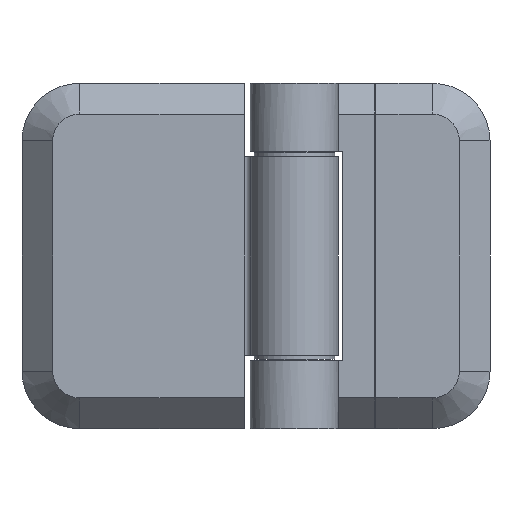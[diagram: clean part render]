
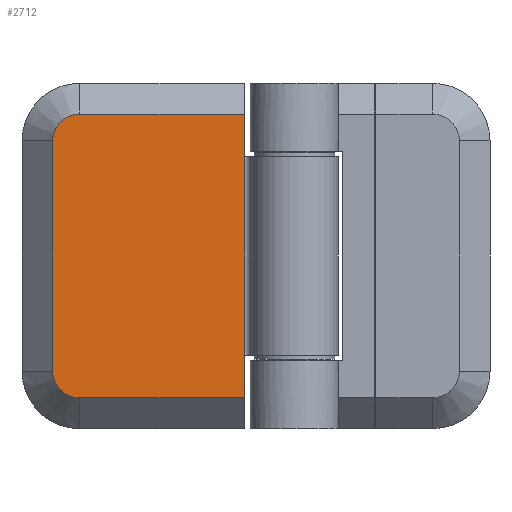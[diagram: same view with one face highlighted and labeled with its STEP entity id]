
A CAD part, front view. The second image highlights one B-rep face of the part: STEP entity #2712.
In plain terms, the highlighted planar face has unit normal (0, -1, 0).
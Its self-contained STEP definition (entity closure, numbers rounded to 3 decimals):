
#225=LINE('',#5066,#496);
#226=LINE('',#5068,#497);
#227=LINE('',#5070,#498);
#228=LINE('',#5072,#499);
#229=LINE('',#5074,#500);
#230=LINE('',#5076,#501);
#231=LINE('',#5078,#502);
#232=LINE('',#5082,#503);
#496=VECTOR('',#4227,1000.);
#497=VECTOR('',#4228,1000.);
#498=VECTOR('',#4229,1000.);
#499=VECTOR('',#4230,1000.);
#500=VECTOR('',#4231,1000.);
#501=VECTOR('',#4232,1000.);
#502=VECTOR('',#4233,1000.);
#503=VECTOR('',#4236,1000.);
#924=ORIENTED_EDGE('',*,*,#1537,.T.);
#925=ORIENTED_EDGE('',*,*,#1538,.T.);
#926=ORIENTED_EDGE('',*,*,#1539,.F.);
#927=ORIENTED_EDGE('',*,*,#1540,.T.);
#928=ORIENTED_EDGE('',*,*,#1541,.F.);
#929=ORIENTED_EDGE('',*,*,#1542,.F.);
#930=ORIENTED_EDGE('',*,*,#1543,.T.);
#931=ORIENTED_EDGE('',*,*,#1544,.T.);
#932=ORIENTED_EDGE('',*,*,#1545,.T.);
#933=ORIENTED_EDGE('',*,*,#1546,.T.);
#1537=EDGE_CURVE('',#1867,#1868,#2043,.F.);
#1538=EDGE_CURVE('',#1868,#1869,#225,.T.);
#1539=EDGE_CURVE('',#1870,#1869,#226,.T.);
#1540=EDGE_CURVE('',#1870,#1871,#227,.T.);
#1541=EDGE_CURVE('',#1872,#1871,#228,.T.);
#1542=EDGE_CURVE('',#1873,#1872,#229,.T.);
#1543=EDGE_CURVE('',#1873,#1874,#230,.T.);
#1544=EDGE_CURVE('',#1874,#1875,#231,.T.);
#1545=EDGE_CURVE('',#1875,#1876,#2044,.F.);
#1546=EDGE_CURVE('',#1876,#1867,#232,.T.);
#1867=VERTEX_POINT('',#5064);
#1868=VERTEX_POINT('',#5065);
#1869=VERTEX_POINT('',#5067);
#1870=VERTEX_POINT('',#5069);
#1871=VERTEX_POINT('',#5071);
#1872=VERTEX_POINT('',#5073);
#1873=VERTEX_POINT('',#5075);
#1874=VERTEX_POINT('',#5077);
#1875=VERTEX_POINT('',#5079);
#1876=VERTEX_POINT('',#5081);
#2043=CIRCLE('',#3748,7.);
#2044=CIRCLE('',#3749,7.);
#2180=EDGE_LOOP('',(#924,#925,#926,#927,#928,#929,#930,#931,#932,#933));
#2399=FACE_BOUND('',#2180,.T.);
#2593=PLANE('',#3747);
#2712=ADVANCED_FACE('',(#2399),#2593,.F.);
#3747=AXIS2_PLACEMENT_3D('',#5062,#4223,#4224);
#3748=AXIS2_PLACEMENT_3D('',#5063,#4225,#4226);
#3749=AXIS2_PLACEMENT_3D('',#5080,#4234,#4235);
#4223=DIRECTION('',(0.,1.,0.));
#4224=DIRECTION('',(-1.,0.,0.));
#4225=DIRECTION('',(0.,1.,0.));
#4226=DIRECTION('',(-1.,0.,0.));
#4227=DIRECTION('',(1.,0.,0.));
#4228=DIRECTION('',(0.,0.,-1.));
#4229=DIRECTION('',(1.,0.,0.));
#4230=DIRECTION('',(0.,0.,-1.));
#4231=DIRECTION('',(1.,0.,0.));
#4232=DIRECTION('',(0.,0.,1.));
#4233=DIRECTION('',(-1.,0.,0.));
#4234=DIRECTION('',(0.,1.,0.));
#4235=DIRECTION('',(-1.,0.,0.));
#4236=DIRECTION('',(0.,0.,-1.));
#5062=CARTESIAN_POINT('',(-71.,0.3,45.));
#5063=CARTESIAN_POINT('',(-56.,0.3,-30.));
#5064=CARTESIAN_POINT('',(-63.,0.3,-30.));
#5065=CARTESIAN_POINT('',(-56.,0.3,-37.));
#5066=CARTESIAN_POINT('',(-71.,0.3,-37.));
#5067=CARTESIAN_POINT('',(-13.,0.3,-37.));
#5068=CARTESIAN_POINT('',(-13.,0.3,45.));
#5069=CARTESIAN_POINT('',(-13.,0.3,-25.9));
#5070=CARTESIAN_POINT('',(-71.,0.3,-25.9));
#5071=CARTESIAN_POINT('',(-12.944,0.3,-25.9));
#5072=CARTESIAN_POINT('',(-12.944,0.3,45.));
#5073=CARTESIAN_POINT('',(-12.944,0.3,25.9));
#5074=CARTESIAN_POINT('',(-71.,0.3,25.9));
#5075=CARTESIAN_POINT('',(-13.,0.3,25.9));
#5076=CARTESIAN_POINT('',(-13.,0.3,45.));
#5077=CARTESIAN_POINT('',(-13.,0.3,37.));
#5078=CARTESIAN_POINT('',(-56.,0.3,37.));
#5079=CARTESIAN_POINT('',(-56.,0.3,37.));
#5080=CARTESIAN_POINT('',(-56.,0.3,30.));
#5081=CARTESIAN_POINT('',(-63.,0.3,30.));
#5082=CARTESIAN_POINT('',(-63.,0.3,45.));
